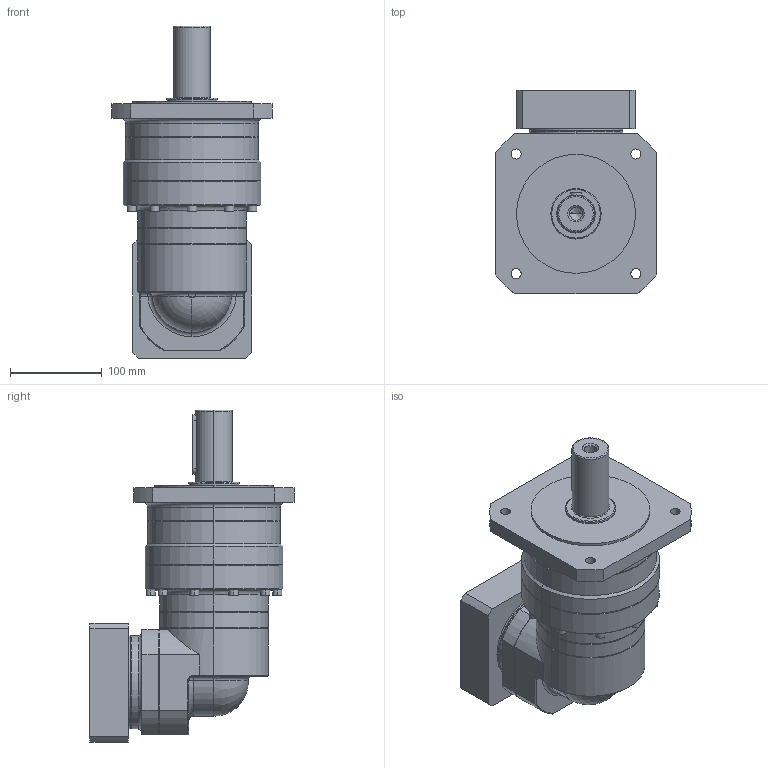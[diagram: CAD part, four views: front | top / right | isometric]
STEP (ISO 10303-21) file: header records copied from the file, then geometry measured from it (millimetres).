
FILE_DESCRIPTION (( 'STEP AP214' ), '1' );
FILE_NAME ('FBR160-L2-S2-P1 24-110-145-M8.STEP', '2025-02-17T01:31:16', ( '微软用户' ), ( '微软中国' ), 'SwSTEP 2.0', 'SolidWorks 2021', '' );
FILE_SCHEMA (( 'AUTOMOTIVE_DESIGN' ));
Length unit declared in the file: millimetre
Products named in the file (1): FBR160-L2-S2-P1 24-110-145-M8
Bounding box: 175 x 223 x 362.73 mm (x, y, z)
Volume: 4619641.9 mm3; surface area: 263765.7 mm2
Topology: 1 solids, 1 shells, 306 faces, 740 edges, 459 vertices
Faces by surface type: plane 147, cylinder 96, cone 43, torus 16, sphere 2, bspline 2
Entity records: 9495 total; most frequent: CARTESIAN_POINT 2131, DIRECTION 1603, ORIENTED_EDGE 1476, EDGE_CURVE 738, AXIS2_PLACEMENT_3D 601, VERTEX_POINT 459, VECTOR 401, LINE 401
